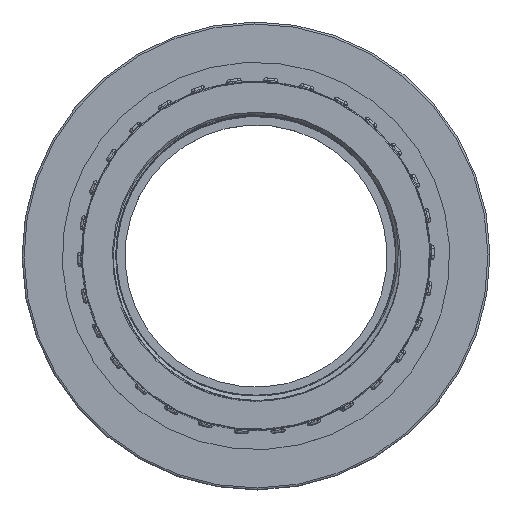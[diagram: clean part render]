
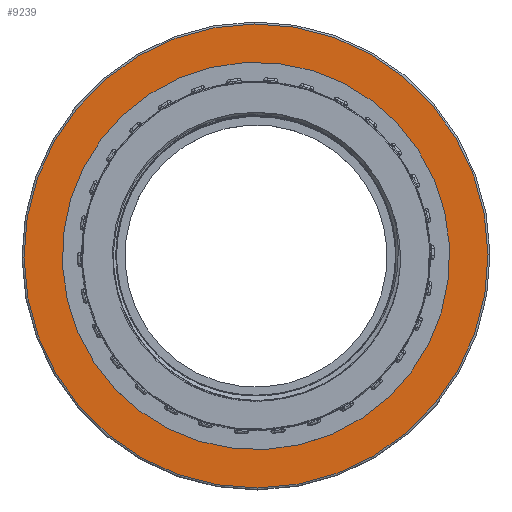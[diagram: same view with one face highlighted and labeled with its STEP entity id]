
A CAD part, top view. The second image highlights one B-rep face of the part: STEP entity #9239.
In plain terms, the highlighted planar face has unit normal (0, 0, 1).
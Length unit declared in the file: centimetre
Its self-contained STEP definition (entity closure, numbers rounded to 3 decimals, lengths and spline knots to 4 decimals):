
#1782=FACE_BOUND('',#2493,.T.);
#1960=FACE_OUTER_BOUND('',#2492,.T.);
#2492=EDGE_LOOP('',(#6595));
#2493=EDGE_LOOP('',(#6596));
#3048=CIRCLE('',#9896,6.);
#3049=CIRCLE('',#9897,5.01);
#3737=VERTEX_POINT('',#16084);
#3738=VERTEX_POINT('',#16086);
#4765=EDGE_CURVE('',#3737,#3737,#3048,.T.);
#4766=EDGE_CURVE('',#3738,#3738,#3049,.T.);
#6595=ORIENTED_EDGE('',*,*,#4765,.F.);
#6596=ORIENTED_EDGE('',*,*,#4766,.T.);
#8430=PLANE('',#9895);
#9239=ADVANCED_FACE('',(#1960,#1782),#8430,.T.);
#9895=AXIS2_PLACEMENT_3D('',#16083,#11310,#11311);
#9896=AXIS2_PLACEMENT_3D('',#16085,#11312,#11313);
#9897=AXIS2_PLACEMENT_3D('',#16087,#11314,#11315);
#11310=DIRECTION('center_axis',(0.,0.,
1.));
#11311=DIRECTION('ref_axis',(-0.493,-0.87,0.));
#11312=DIRECTION('center_axis',(0.,0.,
-1.));
#11313=DIRECTION('ref_axis',(0.87,-0.493,0.));
#11314=DIRECTION('center_axis',(0.,0.,
-1.));
#11315=DIRECTION('ref_axis',(-0.684,0.729,0.));
#16083=CARTESIAN_POINT('Origin',(-5.262,2.9855,2.68));
#16084=CARTESIAN_POINT('',(-5.2186,2.9609,2.68));
#16085=CARTESIAN_POINT('Origin',(0.,0.,
2.68));
#16086=CARTESIAN_POINT('',(3.4293,-3.6524,2.68));
#16087=CARTESIAN_POINT('Origin',(0.,0.,
2.68));
